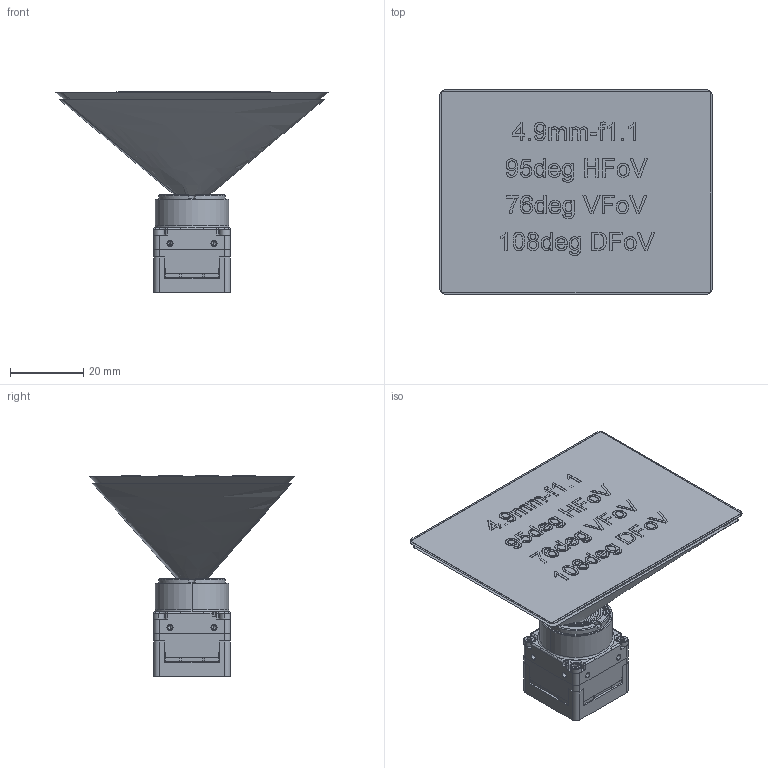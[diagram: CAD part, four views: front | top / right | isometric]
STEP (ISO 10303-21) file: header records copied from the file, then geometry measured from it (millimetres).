
FILE_DESCRIPTION (( 'STEP AP214' ), '1' );
FILE_NAME ('Boson 640SLS, 4.9mm-f1.1, 95deg HFoV.STEP', '2021-09-08T16:43:59', ( '' ), ( '' ), 'SwSTEP 2.0', 'SolidWorks 2020', '' );
FILE_SCHEMA (( 'AUTOMOTIVE_DESIGN' ));
Length unit declared in the file: millimetre
Products named in the file (9): PCBA Boson Main; Sensor Module, Boson 640; Optical Area 4.9mm-f1.1, Boson 640; socket head cap screw_M-1.6 x 0.35x10mm L; Label, Boson Camera 60Hz; Lens Holder, M18x0.5-BosonSL 640 Mach; Boson Frame, Main Board; Boson 640SLS, 4.9mm-f1.1, 95deg HFoV; Lens Assy, 4.9mm-f1.1
Assembly tree (11 placements, depth 2):
  Boson 640SLS, 4.9mm-f1.1, 95deg HFoV
    Sensor Module, Boson 640
    Boson Frame, Main Board
    PCBA Boson Main
    Label, Boson Camera 60Hz
    Lens Assy, 4.9mm-f1.1
    Optical Area 4.9mm-f1.1, Boson 640
    Lens Holder, M18x0.5-BosonSL 640 Mach
    socket head cap screw_M-1.6 x 0.35x10mm L  x4
Bounding box: 74.48 x 55.88 x 54.79 mm (x, y, z)
Volume: 53204.7 mm3; surface area: 19327.2 mm2
Topology: 12 solids, 13 shells, 3601 faces, 9666 edges, 6292 vertices
Faces by surface type: plane 2189, cylinder 628, bspline 508, cone 154, torus 122
Entity records: 164418 total; most frequent: CARTESIAN_POINT 45970, ORIENTED_EDGE 18906, DIRECTION 15902, EDGE_CURVE 9453, VECTOR 6708, LINE 6708, VERTEX_POINT 6187, AXIS2_PLACEMENT_3D 4597
